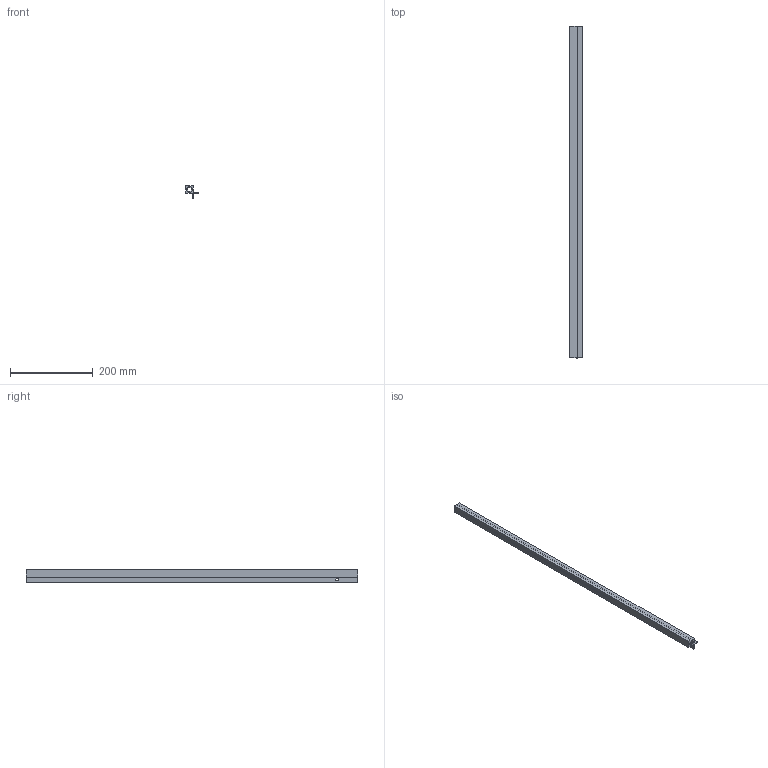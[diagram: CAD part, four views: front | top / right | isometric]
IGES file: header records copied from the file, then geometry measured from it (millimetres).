
Start section: Data from Parasolid IGES Translator 20.0.26, Copyright(c) 2006 Siemens P LM Software. All Rights Reserved.
Global section: file name: 9303886.igs; native system: By Siemens PLM Incorporated; preprocessor: XPlus GENERIC/IGES 20.0.26; author: Noname; organization: Noname; date: 20210827.191739; units: millimetre
Bounding box: 30.5 x 800 x 30.5 mm (x, y, z)
Surface area: 158244.8 mm2 (no closed solid volume)
Topology: 0 solids, 0 shells, 49 faces, 282 edges, 280 vertices
Faces by surface type: extrusion 48, revolution 1
